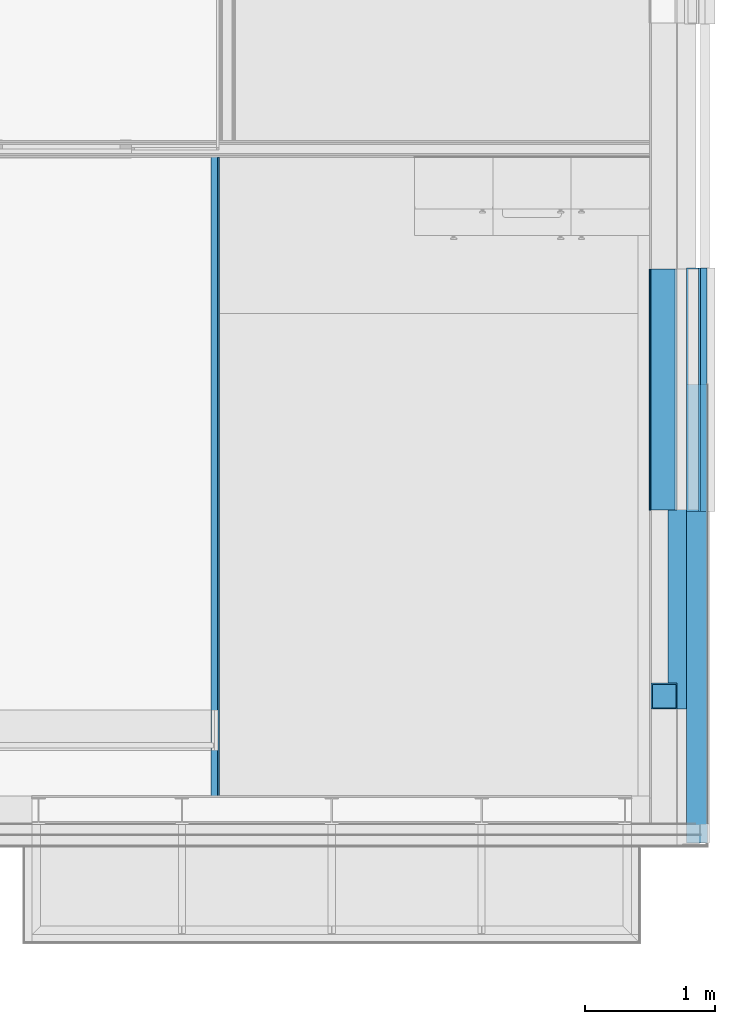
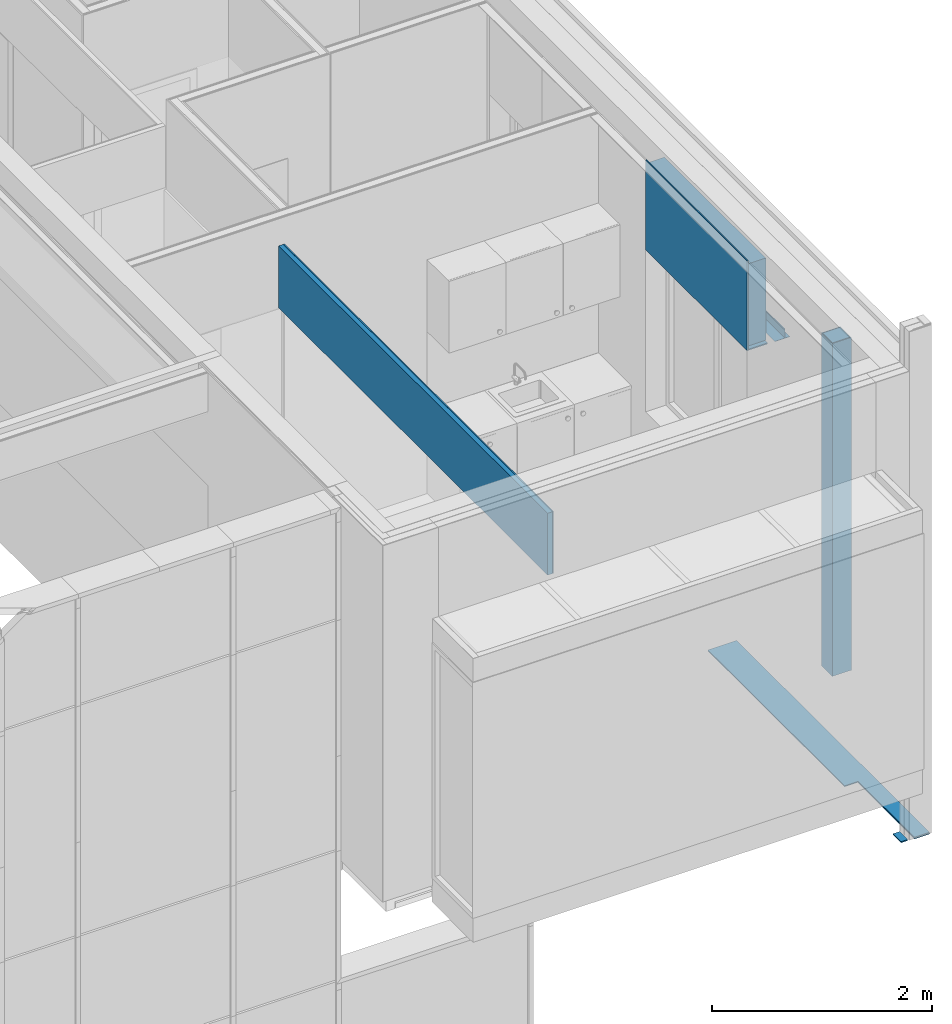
# One storey, part 67 of 137: 12 building element parts, 5 elements without a shape of their own.
"""IFC2X3 building model written with IfcOpenShell, lengths in millimetres."""

from ifc_helpers import new_model, entity, si_unit, converted_unit, derived_unit, money_unit, direction, frame, origin_with_axes, place, context, subcontext, project, spatial, faceted_brep, material, type_object, element, aggregate, save


model = new_model("IFC2X3")

# Units and contexts
model_context = context("Model", 3, precision=0.01, world=origin_with_axes(), true_north=direction((0.0, 1.0)))
body_context = subcontext(model_context, "Body", "Model", "MODEL_VIEW")
ifc_project = project(units=[si_unit("LENGTHUNIT", "METRE", prefix="MILLI"), si_unit("AREAUNIT", "SQUARE_METRE"), si_unit("VOLUMEUNIT", "CUBIC_METRE"), converted_unit("PLANEANGLEUNIT", "DEGREE", entity("IfcPlaneAngleMeasure", 0.0174532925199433), si_unit("PLANEANGLEUNIT", "RADIAN"), dimensions=[0, 0, 0, 0, 0, 0, 0]), money_unit("EUR"), converted_unit("TIMEUNIT", "Year", entity("IfcTimeMeasure", 31556926.0), si_unit("TIMEUNIT", "SECOND"), dimensions=[0, 0, 1, 0, 0, 0, 0]), si_unit("MASSUNIT", "GRAM", prefix="KILO"), si_unit("THERMODYNAMICTEMPERATUREUNIT", "DEGREE_CELSIUS"), si_unit("LUMINOUSINTENSITYUNIT", "LUMEN"), si_unit("ENERGYUNIT", "JOULE", prefix="MEGA"), derived_unit("THERMALCONDUCTANCEUNIT", [(si_unit("POWERUNIT", "WATT"), 1), (si_unit("LENGTHUNIT", "METRE"), -1), (si_unit("THERMODYNAMICTEMPERATUREUNIT", "KELVIN"), -1)]), derived_unit("SPECIFICHEATCAPACITYUNIT", [(si_unit("ENERGYUNIT", "JOULE"), 1), (si_unit("MASSUNIT", "GRAM", prefix="KILO"), -1), (si_unit("THERMODYNAMICTEMPERATUREUNIT", "KELVIN"), -1)]), derived_unit("MASSDENSITYUNIT", [(si_unit("MASSUNIT", "GRAM", prefix="KILO"), 1), (si_unit("VOLUMEUNIT", "CUBIC_METRE"), -1)])], contexts=[model_context])

# Site, building, storey
site_placement = place(None, origin_with_axes())
site = spatial("IfcSite", under=ifc_project, at=site_placement, Name="Site", CompositionType="ELEMENT")
building_placement = place(site_placement, origin_with_axes())
building = spatial("IfcBuilding", under=site, at=building_placement, Name="Naam gebouw", CompositionType="ELEMENT")
storey_placement = place(building_placement, frame((0.0, 0.0, 3960.0), z_axis=(0.0, 0.0, 1.0), x_axis=(1.0, 0.0, 0.0)))
storey = spatial("IfcBuildingStorey", under=building, at=storey_placement, Name="1e verdieping", CompositionType="ELEMENT", Elevation=3960.0)

# Column, building element parts
column_type = type_object("IfcColumnType", Name="200X200X10 200 x 200", PredefinedType="COLUMN")
column_placement = place(storey_placement, frame((29800.0, 4579.999999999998, -100.0000000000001), z_axis=(0.0, 0.0, 1.0), x_axis=(1.0, 0.0, 0.0)))
column = element("IfcColumn", 1, at=column_placement, inside=storey, type_object=column_type, Name="28_Kolom-x", ObjectType="COLUMN")
ifc_material_1 = material(Name="Metaal - Staal C")
building_element_part_1_placement = place(column_placement, origin_with_axes())
building_element_part_1 = element("IfcBuildingElementPart", 2, at=building_element_part_1_placement, material=ifc_material_1, Name="Metaal - Staal C", context=body_context, shape_type="Brep", body=[
    faceted_brep([(-100.0000000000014, -99.99999999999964, 0.0), (100.0000000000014, -99.99999999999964, 0.0), (100.0000000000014, -99.99999999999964, 3699.999999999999), (-100.0000000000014, -99.99999999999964, 3699.999999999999), (-100.0000000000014, 99.99999999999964, 0.0), (100.0000000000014, 99.99999999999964, 0.0), (-89.99999999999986, -89.99999999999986, 0.0), (89.99999999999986, -89.99999999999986, 0.0), (89.99999999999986, 89.99999999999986, 0.0), (-89.99999999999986, 89.99999999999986, 0.0), (100.0000000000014, 99.99999999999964, 3699.999999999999), (-100.0000000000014, 99.99999999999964, 3699.999999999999), (-89.99999999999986, -89.99999999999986, 3699.999999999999), (-89.99999999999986, 89.99999999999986, 3699.999999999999), (89.99999999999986, 89.99999999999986, 3699.999999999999), (89.99999999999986, -89.99999999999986, 3699.999999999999)], [[[0, 1, 2, 3]], [[0, 4, 5, 1], [6, 7, 8, 9]], [[1, 5, 10, 2]], [[3, 2, 10, 11], [12, 13, 14, 15]], [[4, 0, 3, 11]], [[5, 4, 11, 10]], [[7, 6, 12, 15]], [[8, 7, 15, 14]], [[9, 8, 14, 13]], [[6, 9, 13, 12]]]),
])
ifc_material_2 = material(Name="Beton gewapend C")
building_element_part_2_placement = place(column_placement, origin_with_axes())
building_element_part_2 = element("IfcBuildingElementPart", 3, at=building_element_part_2_placement, material=ifc_material_2, Name="Beton gewapend C", context=body_context, shape_type="Brep", body=[
    faceted_brep([(-89.99999999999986, 89.99999999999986, 3685.000001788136), (89.99999999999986, 89.99999999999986, 3685.000001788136), (89.99999999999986, 89.99999999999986, 0.0), (-89.99999999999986, 89.99999999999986, 0.0), (89.99999999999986, -89.99999999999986, 3685.000001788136), (-89.99999999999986, -89.99999999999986, 3685.000001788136), (89.99999999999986, -89.99999999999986, 0.0), (-89.99999999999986, -89.99999999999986, 0.0)], [[[0, 1, 2, 3]], [[4, 1, 0, 5]], [[1, 4, 6, 2]], [[2, 6, 7, 3]], [[5, 0, 3, 7]], [[4, 5, 7, 6]]]),
    faceted_brep([(89.99999999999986, -89.99999999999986, 3695.000001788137), (89.99999999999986, 89.99999999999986, 3695.000001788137), (89.99999999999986, 89.99999999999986, 3699.999999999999), (89.99999999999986, -89.99999999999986, 3699.999999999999), (-89.99999999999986, 89.99999999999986, 3695.000001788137), (-89.99999999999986, -89.99999999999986, 3695.000001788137), (-89.99999999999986, 89.99999999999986, 3699.999999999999), (-89.99999999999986, -89.99999999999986, 3699.999999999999)], [[[0, 1, 2, 3]], [[4, 1, 0, 5]], [[1, 4, 6, 2]], [[2, 6, 7, 3]], [[5, 0, 3, 7]], [[4, 5, 7, 6]]]),
])
aggregate(column, [building_element_part_1, building_element_part_2])

# Beam, building element parts
beam_type_1 = type_object("IfcBeamType", Name="41 Latei/geveldrager 158 x 112", PredefinedType="BEAM")
beam_1_placement = place(storey_placement, frame((30080.0, 7865.997781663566, 2610.0), z_axis=(0.0, 0.0, 1.0), x_axis=(-1.0, 0.0, 0.0)))
beam_1 = element("IfcBeam", 4, at=beam_1_placement, inside=storey, type_object=beam_type_1, Name="_Regenwaterafvoer-x", ObjectType="BEAM")
building_element_part_3_placement = place(beam_1_placement, origin_with_axes())
building_element_part_3 = element("IfcBuildingElementPart", 5, at=building_element_part_3_placement, material=ifc_material_1, Name="Metaal - Staal C", context=body_context, shape_type="Brep", body=[
    faceted_brep([(-50.00000000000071, 1870.000000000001, 6.55651533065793e-07), (-50.00000000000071, 1870.000000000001, -3.000000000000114), (-50.00000000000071, 0.0, -3.000000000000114), (-50.00000000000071, 0.0, 6.55651533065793e-07), (-5.9603877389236e-08, 1870.000000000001, 6.55651533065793e-07), (-5.9603877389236e-08, 1870.000000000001, 99.3417707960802), (16.54654975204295, 1870.000000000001, 108.8949262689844), (18.04655007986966, 1870.000000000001, 106.2968498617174), (3.000000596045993, 1870.000000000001, 96.99999988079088), (3.000000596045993, 1870.000000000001, 6.55651533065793e-07), (3.000000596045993, 1870.000000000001, -3.000000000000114), (3.000000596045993, 0.0, -3.000000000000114), (3.000000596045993, 0.0, 6.55651533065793e-07), (3.000000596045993, 0.0, 96.99999988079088), (18.04655007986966, 0.0, 106.2968498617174), (16.54654975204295, 0.0, 108.8949262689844), (-5.9603877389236e-08, 0.0, 99.3417707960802), (-5.9603877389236e-08, 0.0, 6.55651533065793e-07)], [[[0, 1, 2, 3]], [[0, 4, 5, 6, 7, 8, 9, 10, 1]], [[1, 10, 11, 2]], [[3, 2, 11, 12, 13, 14, 15, 16, 17]], [[4, 0, 3, 17]], [[5, 4, 17, 16]], [[6, 5, 16, 15]], [[7, 6, 15, 14]], [[8, 7, 14, 13]], [[9, 8, 13, 12]], [[10, 9, 12, 11]]]),
])
building_element_part_4_placement = place(beam_1_placement, origin_with_axes())
building_element_part_4 = element("IfcBuildingElementPart", 6, at=building_element_part_4_placement, material=ifc_material_1, Name="Metaal - Staal C", context=body_context, shape_type="Brep", body=[
    faceted_brep([(3.000000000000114, 1870.000000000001, -3.000000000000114), (108.0000000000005, 1870.000000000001, -3.000000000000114), (108.0000000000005, 0.0, -3.000000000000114), (3.000000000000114, 0.0, -3.000000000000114), (3.000000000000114, 1870.000000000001, 0.0), (108.0000000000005, 1870.000000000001, 0.0), (108.0000000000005, 0.0, 0.0), (3.000000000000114, 0.0, 0.0)], [[[0, 1, 2, 3]], [[0, 4, 5, 1]], [[1, 5, 6, 2]], [[3, 2, 6, 7]], [[4, 0, 3, 7]], [[5, 4, 7, 6]]]),
])
aggregate(beam_1, [building_element_part_3, building_element_part_4])

beam_type_2 = type_object("IfcBeamType", Name="31 HSB boven kozijnen 214 x 1000", PredefinedType="BEAM")
beam_2_placement = place(storey_placement, frame((29685.99999999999, 7855.997781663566, 2600.000000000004), z_axis=(0.0, 0.0, 1.0), x_axis=(-1.0, 0.0, 0.0)))
beam_2 = element("IfcBeam", 7, at=beam_2_placement, inside=storey, type_object=beam_type_2, Name="28_Balk-x", ObjectType="BEAM")
ifc_material_3 = material(Name="Gipsplaat")
building_element_part_5_placement = place(beam_2_placement, origin_with_axes())
building_element_part_5 = element("IfcBuildingElementPart", 8, at=building_element_part_5_placement, material=ifc_material_3, Name="Gipsplaat", context=body_context, shape_type="Brep", body=[
    faceted_brep([(-11.99999661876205, 1850.000000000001, 0.0), (9.341707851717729e-06, 1850.000000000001, 0.0), (9.341711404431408e-06, 0.0, 0.0), (-11.99999661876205, 0.0, 0.0), (-11.99999661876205, 1850.000000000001, 999.9999999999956), (9.341707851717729e-06, 1850.000000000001, 999.9999999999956), (9.341707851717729e-06, 0.0, 999.9999999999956), (-11.99999661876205, 0.0, 999.9999999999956)], [[[0, 1, 2, 3]], [[0, 4, 5, 1]], [[1, 5, 6, 2]], [[3, 2, 6, 7]], [[4, 0, 3, 7]], [[5, 4, 7, 6]]]),
])
building_element_part_6_placement = place(beam_2_placement, origin_with_axes())
building_element_part_6 = element("IfcBuildingElementPart", 9, at=building_element_part_6_placement, material=ifc_material_3, Name="Gipsplaat", context=body_context, shape_type="Brep", body=[
    faceted_brep([(-214.0000025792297, 1850.000000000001, 12.00000596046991), (-214.0000025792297, 1850.000000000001, 0.0), (-214.0000025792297, 0.0, 0.0), (-214.0000025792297, 0.0, 12.00000596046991), (-11.99999661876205, 1850.000000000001, 12.00000596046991), (-11.99999661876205, 1850.000000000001, 0.0), (-11.99999661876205, 0.0, 0.0), (-11.99999661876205, 0.0, 12.00000596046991)], [[[0, 1, 2, 3]], [[0, 4, 5, 1]], [[1, 5, 6, 2]], [[3, 2, 6, 7]], [[4, 0, 3, 7]], [[5, 4, 7, 6]]]),
])
ifc_material_4 = material(Name="ALG - ISOLATIE")
building_element_part_7_placement = place(beam_2_placement, origin_with_axes())
building_element_part_7 = element("IfcBuildingElementPart", 10, at=building_element_part_7_placement, material=ifc_material_4, Name="ALG - ISOLATIE", context=body_context, shape_type="Brep", body=[
    faceted_brep([(-12.00000000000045, 1850.000000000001, 49.99999999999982), (-12.00000000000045, 1850.000000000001, 961.9999999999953), (-12.00000000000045, 0.0, 961.9999999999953), (-12.00000000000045, 0.0, 49.99999999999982), (-196.0000000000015, 1850.000000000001, 49.99999999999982), (-196.0000000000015, 1850.000000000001, 961.9999999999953), (-195.999999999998, 0.0, 961.9999999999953), (-195.999999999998, 0.0, 49.99999999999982)], [[[0, 1, 2, 3]], [[0, 4, 5, 1]], [[1, 5, 6, 2]], [[3, 2, 6, 7]], [[4, 0, 3, 7]], [[5, 4, 7, 6]]]),
])
aggregate(beam_2, [building_element_part_5, building_element_part_6, building_element_part_7])

beam_type_3 = type_object("IfcBeamType", Name="45 Afwerking Geveldrager 305 x 30", PredefinedType="BEAM")
beam_3_placement = place(storey_placement, frame((30149.99999999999, 3453.999999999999, -1379.999999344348), z_axis=(0.0, 0.0, 1.0), x_axis=(1.0, 0.0, 0.0)))
beam_3 = element("IfcBeam", 11, at=beam_3_placement, inside=storey, type_object=beam_type_3, Name="_Regenwaterafvoer-x", ObjectType="BEAM")
ifc_material_5 = material(Name="STO pleisterlaag")
building_element_part_8_placement = place(beam_3_placement, origin_with_axes())
building_element_part_8 = element("IfcBuildingElementPart", 12, at=building_element_part_8_placement, material=ifc_material_5, Name="STO pleisterlaag", context=body_context, shape_type="Brep", body=[
    faceted_brep([(-177.9999984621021, 0.0, 8.000003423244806), (-177.9999984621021, 3515.997857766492, 8.000003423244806), (-177.9999984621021, 3515.997857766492, 3.000002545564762), (-177.9999984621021, 0.0, 3.000002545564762), (-17.99998837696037, 0.0, 8.000003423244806), (-17.99998837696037, 3515.997857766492, 8.000003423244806), (-17.99998837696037, 3515.997857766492, 3.000002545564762), (-17.99998837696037, 0.0, 3.000002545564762)], [[[0, 1, 2, 3]], [[4, 5, 1, 0]], [[2, 1, 5, 6]], [[3, 2, 6, 7]], [[4, 0, 3, 7]], [[7, 6, 5, 4]]]),
])
building_element_part_9_placement = place(beam_3_placement, origin_with_axes())
building_element_part_9 = element("IfcBuildingElementPart", 13, at=building_element_part_9_placement, material=ifc_material_5, Name="STO pleisterlaag", context=body_context, shape_type="Brep", body=[
    faceted_brep([(-177.9999976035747, 3515.997857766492, 3.000003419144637), (-177.9999999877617, 3515.997857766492, 8.172538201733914e-07), (-177.9999999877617, 0.0, 8.172538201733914e-07), (-177.9999976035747, 0.0, 3.000003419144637), (-17.99998837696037, 3515.997857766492, 3.000003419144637), (-17.99999076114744, 3515.997857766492, 8.172538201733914e-07), (-17.99999076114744, 0.0, 8.172538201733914e-07), (-17.99998837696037, 0.0, 3.000003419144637)], [[[0, 1, 2, 3]], [[0, 4, 5, 1]], [[1, 5, 6, 2]], [[3, 2, 6, 7]], [[4, 0, 3, 7]], [[5, 4, 7, 6]]]),
])
ifc_material_6 = material(Name="Cementgebonden plaatmateriaal")
building_element_part_10_placement = place(beam_3_placement, origin_with_axes())
building_element_part_10 = element("IfcBuildingElementPart", 14, at=building_element_part_10_placement, material=ifc_material_6, Name="Cementgebonden plaatmateriaal", context=body_context, shape_type="Brep", body=[
    faceted_brep([(-249.9999977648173, 145.9999999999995, 20.00000059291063), (-319.999999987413, 145.9999999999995, 20.00000059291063), (-319.999999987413, 0.0, 20.00000059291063), (-250.0000576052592, 0.0, 20.00000059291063), (-249.9999977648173, 145.9999999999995, 8.000000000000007), (-319.999999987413, 145.9999996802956, 8.000000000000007), (-319.999999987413, 0.0, 8.000001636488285), (-250.0000474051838, 0.0, 8.000000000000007)], [[[0, 1, 2, 3]], [[1, 0, 4, 5]], [[1, 5, 6, 2]], [[7, 3, 2, 6]], [[0, 3, 7, 4]], [[4, 7, 6, 5]]]),
    faceted_brep([(-177.9999999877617, 1025.999955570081, 20.00000059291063), (-177.9999999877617, 0.0, 20.00000059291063), (-17.99998837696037, 0.0, 20.00000059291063), (-17.99998837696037, 3515.997857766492, 20.00000059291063), (-319.999999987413, 3515.997857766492, 20.00000059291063), (-319.999999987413, 1025.999955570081, 20.00000059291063), (-177.9999999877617, 1025.999955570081, 8.000000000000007), (-177.9999999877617, 0.0, 8.000000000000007), (-17.99998837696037, 0.0, 8.000001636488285), (-17.99998837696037, 3515.997857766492, 8.000001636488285), (-177.9999984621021, 3515.997857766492, 8.000003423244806), (-319.999999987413, 3515.997857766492, 8.000001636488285), (-319.999999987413, 1025.999955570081, 8.000000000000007)], [[[0, 1, 2, 3, 4, 5]], [[1, 0, 6, 7]], [[1, 7, 8, 2]], [[8, 9, 3, 2]], [[4, 3, 9, 10, 11]], [[12, 5, 4, 11]], [[0, 5, 12, 6]], [[7, 6, 10, 9, 8]], [[6, 12, 11, 10]]]),
])
aggregate(beam_3, [building_element_part_8, building_element_part_9, building_element_part_10])

# Proxy, building element parts
building_element_proxy_type = type_object("IfcBuildingElementProxyType", Name="22 Metal stud 62.5 plafond 63", PredefinedType="NOTDEFINED")
proxy_placement = place(storey_placement, frame((26386.00000000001, 8715.0, 2611.999999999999), z_axis=(0.0, 0.0, 1.0), x_axis=(0.0, -1.0, 0.0)))
proxy = element("IfcBuildingElementProxy", 15, at=proxy_placement, inside=storey, type_object=building_element_proxy_type, Name="_Wand-x")
ifc_material_7 = material(Name="ALG - LICHTE SCHEIDINGSWAND")
building_element_part_11_placement = place(proxy_placement, origin_with_axes())
building_element_part_11 = element("IfcBuildingElementPart", 16, at=building_element_part_11_placement, material=ifc_material_7, Name="ALG - LICHTE SCHEIDINGSWAND", context=body_context, shape_type="Brep", body=[
    faceted_brep([(4901.000000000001, -62.5, 688.0000000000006), (4901.000000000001, -12.49999999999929, 688.0000000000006), (0.0, -12.49999999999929, 688.0000000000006), (0.0, -62.5, 688.0000000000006), (4901.000000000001, -62.5, 0.0), (4901.000000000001, -12.49999999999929, 0.0), (0.0, -12.49999999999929, 0.0), (0.0, -62.5, 0.0)], [[[0, 1, 2, 3]], [[0, 4, 5, 1]], [[1, 5, 6, 2]], [[3, 2, 6, 7]], [[4, 0, 3, 7]], [[5, 4, 7, 6]]]),
])
building_element_part_12_placement = place(proxy_placement, origin_with_axes())
building_element_part_12 = element("IfcBuildingElementPart", 17, at=building_element_part_12_placement, material=ifc_material_3, Name="Gipsplaat", context=body_context, shape_type="Brep", body=[
    faceted_brep([(4901.000000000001, -12.49999999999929, 688.0000000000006), (4901.000000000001, 0.0, 688.0000000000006), (0.0, 0.0, 688.0000000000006), (0.0, -12.49999999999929, 688.0000000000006), (4901.000000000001, -12.49999999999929, 0.0), (4901.000000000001, 0.0, 0.0), (0.0, 0.0, 0.0), (0.0, -12.49999999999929, 0.0)], [[[0, 1, 2, 3]], [[0, 4, 5, 1]], [[1, 5, 6, 2]], [[3, 2, 6, 7]], [[4, 0, 3, 7]], [[5, 4, 7, 6]]]),
])
aggregate(proxy, [building_element_part_11, building_element_part_12])

save(model, "model.ifc")
